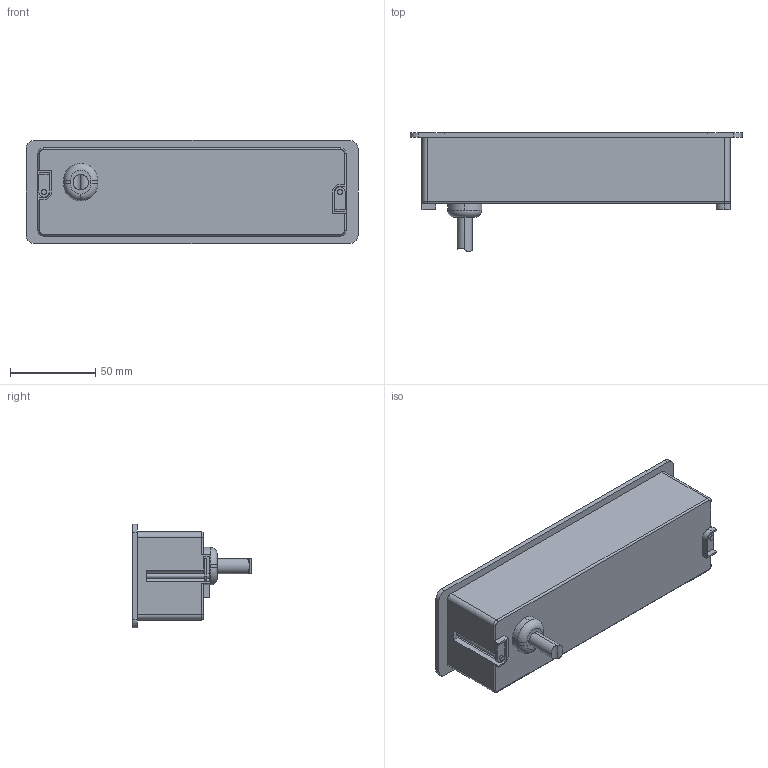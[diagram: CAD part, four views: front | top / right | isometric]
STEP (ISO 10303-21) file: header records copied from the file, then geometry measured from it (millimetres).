
FILE_DESCRIPTION (( 'STEP AP203' ), '1' );
FILE_NAME ('14-0966_SEAMLESS.STEP', '2026-01-19T05:48:19', ( '' ), ( '' ), 'SwSTEP 2.0', 'SolidWorks 2025', '' );
FILE_SCHEMA (( 'CONFIG_CONTROL_DESIGN' ));
Length unit declared in the file: millimetre
Products named in the file (1): 14-0966_SEAMLESS
Bounding box: 194.2 x 69.5 x 60.5 mm (x, y, z)
Volume: 389672.9 mm3; surface area: 48956.5 mm2
Topology: 1 solids, 1 shells, 217 faces, 538 edges, 354 vertices
Faces by surface type: plane 158, cylinder 52, torus 7
Entity records: 6544 total; most frequent: CARTESIAN_POINT 1192, DIRECTION 1081, ORIENTED_EDGE 1076, EDGE_CURVE 538, VECTOR 427, LINE 427, VERTEX_POINT 354, AXIS2_PLACEMENT_3D 327
